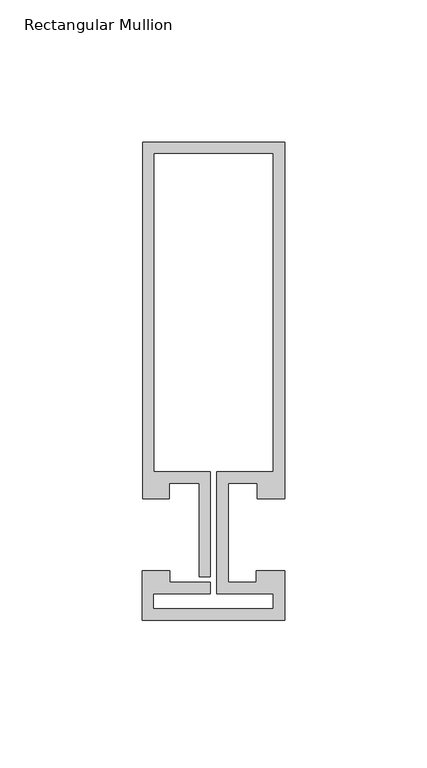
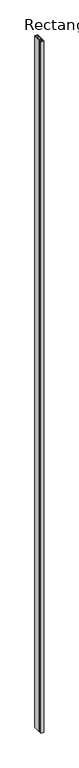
"""IFC4 building model written with IfcOpenShell, lengths in millimetres: member geometry, Rectangular Mullion : Reynaers_CW-50_Transom-Transom_125.5mm_Facecap-02B."""

from ifc_helpers import new_model, si_unit, frame, origin, place, context, project, spatial, polyline, outline, extrude, source, transform, mapped, element, save


def rectangular_mullion_693bc9d2(model_context):
    return source(origin(), model_context, "Body", "SweptSolid", [
        extrude(outline(polyline([(25.1995941, -12.7331291), (25.1995941, -30.0331291), (-24.994845, -30.0331291), (-24.994845, -12.7331291), (-15.2996495, -12.7331291), (-15.2996495, -16.7331291), (-0.9004059, -16.7331291), (-0.9004059, -20.7331291), (-20.994845, -20.7331291), (-20.994845, -26.0331291), (21.1995941, -26.0331291), (21.1995941, -20.7331291), (1.2995941, -20.7331291), (1.2995941, 22.1331291), (21.1995941, 22.1331291), (21.1995941, 134.2331291), (-20.8004059, 134.2331291), (-20.8004059, 22.1331291), (-0.9004059, 22.1331291), (-0.9004059, -14.7331291), (-4.9004059, -14.7331291), (-4.9004059, 18.1331291), (-15.499, 18.1331291), (-15.499, 12.7331291), (-24.8004059, 12.7331291), (-24.8004059, 138.2331291), (25.1995941, 138.2331291), (25.1995941, 12.7331291), (15.499, 12.7331291), (15.499, 18.1331291), (5.2995941, 18.1331291), (5.2995941, -16.7331291), (15.2996495, -16.7331291), (15.2996495, -12.7331291), (25.1995941, -12.7331291)])), frame((0.0, 0.0, -12000.0), z_axis=(0.0, 0.0, 1.0), x_axis=(1.0, 0.0, 0.0)), (0.0, 0.0, 1.0), 12000.0),
    ])


if __name__ == "__main__":
    model = new_model("IFC4")
    model_context = context("Model", 3, world=origin())
    ifc_project = project(units=[si_unit("LENGTHUNIT", "METRE", prefix="MILLI")], contexts=[model_context])
    site = spatial("IfcSite", under=ifc_project)
    building = spatial("IfcBuilding", under=site)
    placement = place(None, origin())
    rectangular_mullion_shape = rectangular_mullion_693bc9d2(model_context)
    element("IfcMember", 1, ObjectType="Rectangular Mullion : Reynaers_CW-50_Transom-Transom_125.5mm_Facecap-02B", at=placement, inside=building, context=model_context, shape_type="MappedRepresentation", body=[
        mapped(rectangular_mullion_shape, transform((0.0, 0.0, 0.0), x_axis=(1.0, 0.0, 0.0), y_axis=(0.0, 1.0, 0.0), z_axis=(0.0, 0.0, 1.0))),
    ])
    save(model, "model.ifc")
